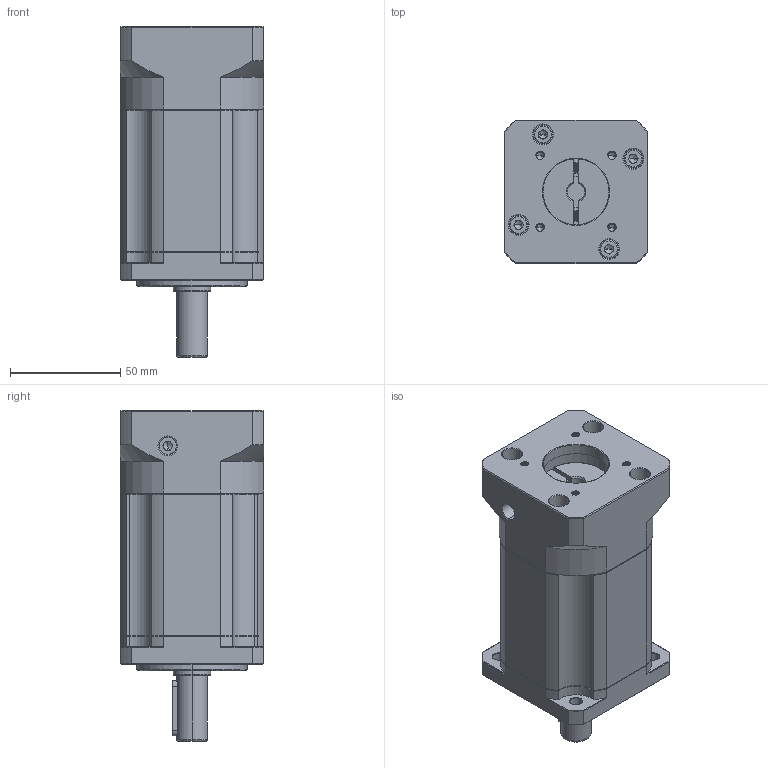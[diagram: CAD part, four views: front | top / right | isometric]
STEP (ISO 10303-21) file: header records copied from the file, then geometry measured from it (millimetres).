
FILE_DESCRIPTION (( 'STEP AP214' ), '1' );
FILE_NAME ('ZB060-D14-L3-P2-8-30-46-M4.step', '2023-08-16T07:03:47', ( '' ), ( '' ), 'SwSTEP 2.0', 'SolidWorks 2016', '' );
FILE_SCHEMA (( 'AUTOMOTIVE_DESIGN' ));
Length unit declared in the file: millimetre
Products named in the file (1): ZB060-D14-L3-P2-8-30-46-M4
Bounding box: 65 x 65 x 150 mm (x, y, z)
Volume: 397083.7 mm3; surface area: 62876.2 mm2
Topology: 6 solids, 6 shells, 2154 faces, 5800 edges, 3734 vertices
Faces by surface type: plane 1059, bspline 397, cylinder 381, cone 281, torus 36
Entity records: 114774 total; most frequent: CARTESIAN_POINT 40157, ORIENTED_EDGE 11540, DIRECTION 9092, EDGE_CURVE 5770, VERTEX_POINT 3734, VECTOR 3634, LINE 3634, AXIS2_PLACEMENT_3D 2729
